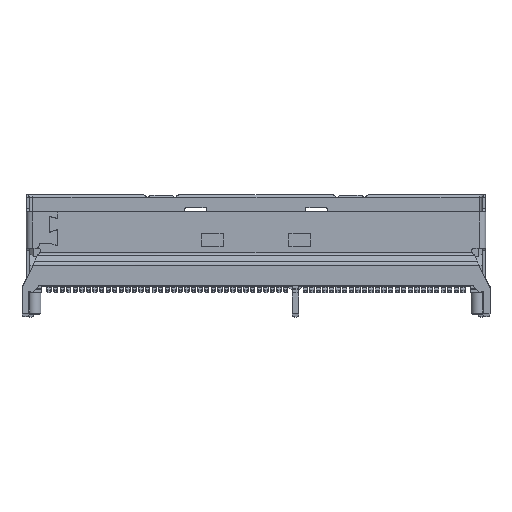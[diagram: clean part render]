
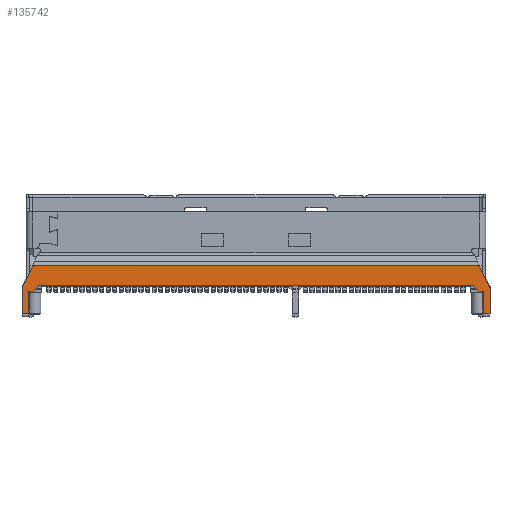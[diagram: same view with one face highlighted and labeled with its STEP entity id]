
A CAD part, top view. The second image highlights one B-rep face of the part: STEP entity #135742.
In plain terms, the highlighted planar face has unit normal (0, 0, 1).
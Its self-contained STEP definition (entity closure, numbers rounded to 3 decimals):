
#4479=DIRECTION('',(-1.,0.,0.));
#4480=VECTOR('',#4479,40.673);
#4481=CARTESIAN_POINT('',(20.336,1.891,3.35));
#4482=LINE('',#4481,#4480);
#4501=CARTESIAN_POINT('',(20.675,-0.53,3.35));
#4502=DIRECTION('',(0.,0.,-1.));
#4503=DIRECTION('',(-1.,0.,0.));
#4504=AXIS2_PLACEMENT_3D('',#4501,#4502,#4503);
#4506=DIRECTION('',(1.,0.,0.));
#4507=VECTOR('',#4506,0.16);
#4508=CARTESIAN_POINT('',(20.415,-0.53,3.35));
#4509=LINE('',#4508,#4507);
#4510=DIRECTION('',(0.695,-0.719,0.));
#4511=VECTOR('',#4510,0.776);
#4512=CARTESIAN_POINT('',(19.876,0.028,3.35));
#4513=LINE('',#4512,#4511);
#4514=CARTESIAN_POINT('',(19.66,-0.18,3.35));
#4515=DIRECTION('',(0.,0.,-1.));
#4516=DIRECTION('',(0.,1.,0.));
#4517=AXIS2_PLACEMENT_3D('',#4514,#4515,#4516);
#4519=DIRECTION('',(1.,0.,0.));
#4520=VECTOR('',#4519,39.32);
#4521=CARTESIAN_POINT('',(-19.66,0.12,3.35));
#4522=LINE('',#4521,#4520);
#4523=CARTESIAN_POINT('',(-19.66,-0.18,3.35));
#4524=DIRECTION('',(0.,0.,-1.));
#4525=DIRECTION('',(-0.719,0.695,0.));
#4526=AXIS2_PLACEMENT_3D('',#4523,#4524,#4525);
#4528=DIRECTION('',(0.695,0.719,0.));
#4529=VECTOR('',#4528,0.776);
#4530=CARTESIAN_POINT('',(-20.415,-0.53,3.35));
#4531=LINE('',#4530,#4529);
#4532=CARTESIAN_POINT('',(-20.675,-0.53,3.35));
#4533=DIRECTION('',(0.,0.,-1.));
#4534=DIRECTION('',(-1.,0.,0.));
#4535=AXIS2_PLACEMENT_3D('',#4532,#4533,#4534);
#4537=DIRECTION('',(-0.466,-0.885,0.));
#4538=VECTOR('',#4537,2.228);
#4539=CARTESIAN_POINT('',(-20.336,1.891,3.35));
#4540=LINE('',#4539,#4538);
#4541=DIRECTION('',(-0.442,0.897,0.));
#4542=VECTOR('',#4541,2.353);
#4543=CARTESIAN_POINT('',(21.375,-0.22,3.35));
#4544=LINE('',#4543,#4542);
#4551=DIRECTION('',(-1.,0.,0.));
#4552=VECTOR('',#4551,0.6);
#4553=CARTESIAN_POINT('',(21.375,-2.48,3.35));
#4554=LINE('',#4553,#4552);
#4613=DIRECTION('',(0.,-1.,0.));
#4614=VECTOR('',#4613,2.26);
#4615=CARTESIAN_POINT('',(21.375,-0.22,3.35));
#4616=LINE('',#4615,#4614);
#4717=DIRECTION('',(0.,-1.,0.));
#4718=VECTOR('',#4717,2.4);
#4719=CARTESIAN_POINT('',(-21.375,-0.08,3.35));
#4720=LINE('',#4719,#4718);
#4767=DIRECTION('',(-1.,0.,0.));
#4768=VECTOR('',#4767,0.6);
#4769=CARTESIAN_POINT('',(-20.775,-2.48,3.35));
#4770=LINE('',#4769,#4768);
#4801=DIRECTION('',(0.,-1.,0.));
#4802=VECTOR('',#4801,1.95);
#4803=CARTESIAN_POINT('',(-20.775,-0.53,3.35));
#4804=LINE('',#4803,#4802);
#4842=DIRECTION('',(1.,0.,0.));
#4843=VECTOR('',#4842,0.16);
#4844=CARTESIAN_POINT('',(-20.575,-0.53,3.35));
#4845=LINE('',#4844,#4843);
#64676=DIRECTION('',(0.,-1.,0.));
#64677=VECTOR('',#64676,1.95);
#64678=CARTESIAN_POINT('',(20.775,-0.53,3.35));
#64679=LINE('',#64678,#64677);
#107523=CARTESIAN_POINT('',(20.415,-0.53,3.35));
#107524=VERTEX_POINT('',#107523);
#107525=CARTESIAN_POINT('',(19.876,0.028,3.35));
#107526=VERTEX_POINT('',#107525);
#107529=CARTESIAN_POINT('',(19.66,0.12,3.35));
#107530=VERTEX_POINT('',#107529);
#107533=CARTESIAN_POINT('',(-19.66,0.12,3.35));
#107534=VERTEX_POINT('',#107533);
#107549=CARTESIAN_POINT('',(-19.876,0.028,3.35));
#107550=VERTEX_POINT('',#107549);
#107555=CARTESIAN_POINT('',(-20.415,-0.53,3.35));
#107556=VERTEX_POINT('',#107555);
#107843=CARTESIAN_POINT('',(20.575,-0.53,3.35));
#107844=VERTEX_POINT('',#107843);
#107845=CARTESIAN_POINT('',(21.375,-2.48,3.35));
#107846=CARTESIAN_POINT('',(20.775,-2.48,3.35));
#107847=VERTEX_POINT('',#107845);
#107848=VERTEX_POINT('',#107846);
#107849=CARTESIAN_POINT('',(20.775,-0.53,3.35));
#107850=VERTEX_POINT('',#107849);
#107851=CARTESIAN_POINT('',(-20.575,-0.53,3.35));
#107852=VERTEX_POINT('',#107851);
#107853=CARTESIAN_POINT('',(-20.775,-0.53,3.35));
#107854=VERTEX_POINT('',#107853);
#107855=CARTESIAN_POINT('',(-20.775,-2.48,3.35));
#107856=VERTEX_POINT('',#107855);
#107857=CARTESIAN_POINT('',(-21.375,-2.48,3.35));
#107858=VERTEX_POINT('',#107857);
#107859=CARTESIAN_POINT('',(-21.375,-0.08,3.35));
#107860=VERTEX_POINT('',#107859);
#107861=CARTESIAN_POINT('',(-20.336,1.891,3.35));
#107862=VERTEX_POINT('',#107861);
#107863=CARTESIAN_POINT('',(20.336,1.891,3.35));
#107864=VERTEX_POINT('',#107863);
#107865=CARTESIAN_POINT('',(21.375,-0.22,3.35));
#107866=VERTEX_POINT('',#107865);
#135700=CARTESIAN_POINT('',(0.,-0.294,3.35));
#135701=DIRECTION('',(0.,0.,1.));
#135702=DIRECTION('',(0.,-1.,0.));
#135703=AXIS2_PLACEMENT_3D('',#135700,#135701,#135702);
#135704=PLANE('',#135703);
#135706=ORIENTED_EDGE('',*,*,#135705,.T.);
#135708=ORIENTED_EDGE('',*,*,#135707,.F.);
#135710=ORIENTED_EDGE('',*,*,#135709,.F.);
#135712=ORIENTED_EDGE('',*,*,#135711,.F.);
#135714=ORIENTED_EDGE('',*,*,#135713,.F.);
#135716=ORIENTED_EDGE('',*,*,#135715,.F.);
#135718=ORIENTED_EDGE('',*,*,#135717,.F.);
#135720=ORIENTED_EDGE('',*,*,#135719,.F.);
#135722=ORIENTED_EDGE('',*,*,#135721,.F.);
#135724=ORIENTED_EDGE('',*,*,#135723,.F.);
#135726=ORIENTED_EDGE('',*,*,#135725,.F.);
#135728=ORIENTED_EDGE('',*,*,#135727,.T.);
#135730=ORIENTED_EDGE('',*,*,#135729,.T.);
#135732=ORIENTED_EDGE('',*,*,#135731,.F.);
#135734=ORIENTED_EDGE('',*,*,#135733,.F.);
#135735=ORIENTED_EDGE('',*,*,#135690,.F.);
#135737=ORIENTED_EDGE('',*,*,#135736,.F.);
#135739=ORIENTED_EDGE('',*,*,#135738,.T.);
#135740=EDGE_LOOP('',(#135706,#135708,#135710,#135712,#135714,#135716,#135718,
#135720,#135722,#135724,#135726,#135728,#135730,#135732,#135734,#135735,#135737,
#135739));
#135741=FACE_OUTER_BOUND('',#135740,.F.);
#4505=CIRCLE('',#4504,0.1);
#4518=CIRCLE('',#4517,0.3);
#4527=CIRCLE('',#4526,0.3);
#4536=CIRCLE('',#4535,0.1);
#135690=EDGE_CURVE('',#107864,#107862,#4482,.T.);
#135705=EDGE_CURVE('',#107847,#107848,#4554,.T.);
#135707=EDGE_CURVE('',#107850,#107848,#64679,.T.);
#135709=EDGE_CURVE('',#107844,#107850,#4505,.T.);
#135711=EDGE_CURVE('',#107524,#107844,#4509,.T.);
#135713=EDGE_CURVE('',#107526,#107524,#4513,.T.);
#135715=EDGE_CURVE('',#107530,#107526,#4518,.T.);
#135717=EDGE_CURVE('',#107534,#107530,#4522,.T.);
#135719=EDGE_CURVE('',#107550,#107534,#4527,.T.);
#135721=EDGE_CURVE('',#107556,#107550,#4531,.T.);
#135723=EDGE_CURVE('',#107852,#107556,#4845,.T.);
#135725=EDGE_CURVE('',#107854,#107852,#4536,.T.);
#135727=EDGE_CURVE('',#107854,#107856,#4804,.T.);
#135729=EDGE_CURVE('',#107856,#107858,#4770,.T.);
#135731=EDGE_CURVE('',#107860,#107858,#4720,.T.);
#135733=EDGE_CURVE('',#107862,#107860,#4540,.T.);
#135736=EDGE_CURVE('',#107866,#107864,#4544,.T.);
#135738=EDGE_CURVE('',#107866,#107847,#4616,.T.);
#135742=ADVANCED_FACE('',(#135741),#135704,.T.);
